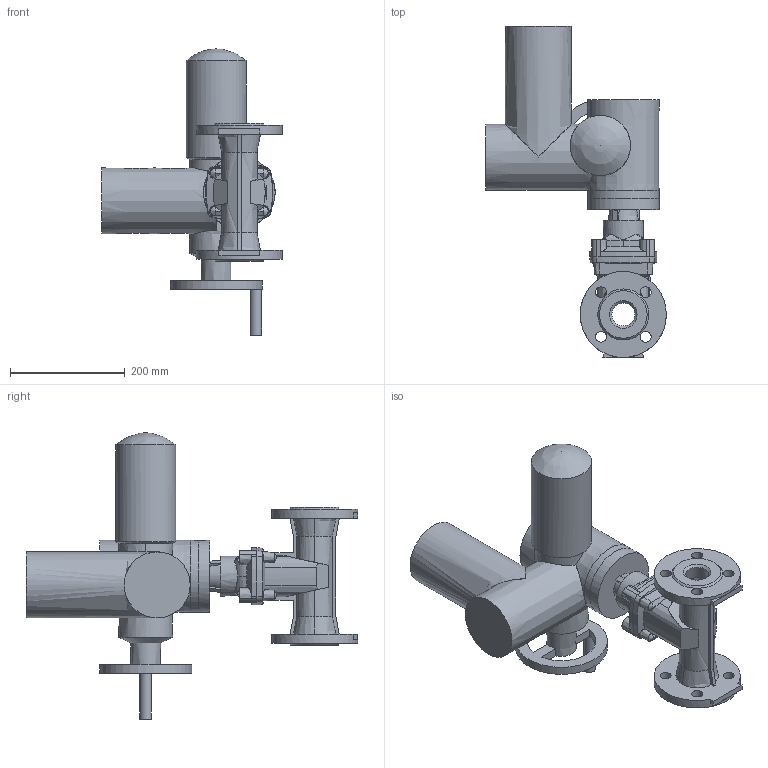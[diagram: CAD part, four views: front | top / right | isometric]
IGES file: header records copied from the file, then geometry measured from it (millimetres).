
Start section: SolidWorks IGES file using analytic representation for surfaces
Global section: file name: \\avksan2\techshare\PBM outline export from Enovia\O_15_70_DN040_X1X_SA07.6_AA0.igs; native system: SolidWorks 2012; preprocessor: SolidWorks 2012; author: pbm; date: 170320.134151; units: inch
Bounding box: 315 x 577.5 x 499 mm (x, y, z)
Surface area: 574410 mm2 (no closed solid volume)
Topology: 0 solids, 0 shells, 263 faces, 1527 edges, 1485 vertices
Faces by surface type: revolution 142, bspline 121
